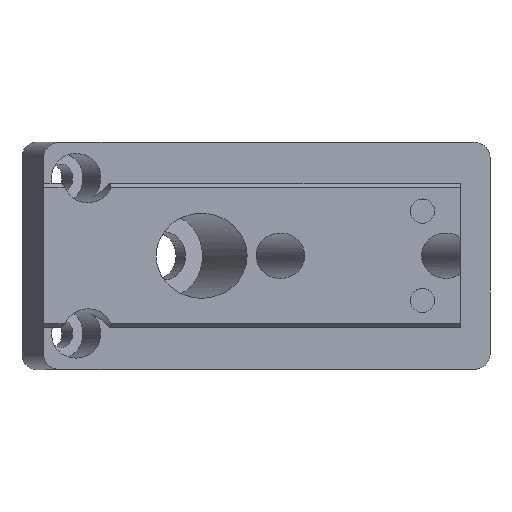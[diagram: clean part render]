
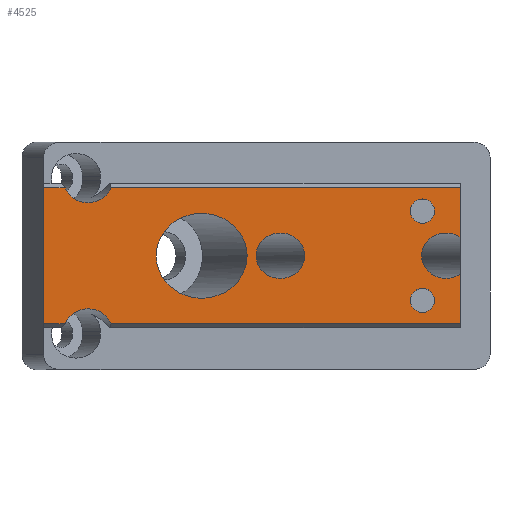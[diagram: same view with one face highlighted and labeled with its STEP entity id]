
A CAD part, top view. The second image highlights one B-rep face of the part: STEP entity #4525.
In plain terms, the highlighted planar face has unit normal (0, 0, 1).
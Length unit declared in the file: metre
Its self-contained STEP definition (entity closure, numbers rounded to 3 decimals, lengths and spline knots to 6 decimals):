
#150=ELLIPSE('',#4811,0.005998,0.0056);
#151=ELLIPSE('',#4812,0.003213,0.003);
#152=ELLIPSE('',#4815,0.003213,0.003);
#153=ELLIPSE('',#4816,0.003213,0.003);
#154=ELLIPSE('',#4817,0.003213,0.003);
#245=CIRCLE('',#4813,0.0016);
#246=CIRCLE('',#4814,0.0016);
#360=ORIENTED_EDGE('',*,*,#1730,.T.);
#361=ORIENTED_EDGE('',*,*,#1731,.T.);
#362=ORIENTED_EDGE('',*,*,#1732,.T.);
#363=ORIENTED_EDGE('',*,*,#1733,.T.);
#364=ORIENTED_EDGE('',*,*,#1734,.F.);
#365=ORIENTED_EDGE('',*,*,#1735,.T.);
#366=ORIENTED_EDGE('',*,*,#1736,.F.);
#367=ORIENTED_EDGE('',*,*,#1737,.T.);
#368=ORIENTED_EDGE('',*,*,#1738,.F.);
#369=ORIENTED_EDGE('',*,*,#1739,.T.);
#370=ORIENTED_EDGE('',*,*,#1740,.T.);
#371=ORIENTED_EDGE('',*,*,#1741,.T.);
#372=ORIENTED_EDGE('',*,*,#1742,.F.);
#373=ORIENTED_EDGE('',*,*,#1743,.T.);
#1730=EDGE_CURVE('',#2415,#2415,#150,.T.);
#1731=EDGE_CURVE('',#2416,#2416,#151,.T.);
#1732=EDGE_CURVE('',#2417,#2417,#245,.T.);
#1733=EDGE_CURVE('',#2418,#2418,#246,.T.);
#1734=EDGE_CURVE('',#2419,#2420,#2857,.T.);
#1735=EDGE_CURVE('',#2419,#2421,#152,.T.);
#1736=EDGE_CURVE('',#2422,#2421,#2858,.T.);
#1737=EDGE_CURVE('',#2422,#2423,#2859,.T.);
#1738=EDGE_CURVE('',#2424,#2423,#153,.F.);
#1739=EDGE_CURVE('',#2424,#2425,#2860,.T.);
#1740=EDGE_CURVE('',#2425,#2426,#2861,.T.);
#1741=EDGE_CURVE('',#2426,#2427,#2862,.T.);
#1742=EDGE_CURVE('',#2428,#2427,#154,.F.);
#1743=EDGE_CURVE('',#2428,#2420,#2863,.T.);
#2415=VERTEX_POINT('',#6326);
#2416=VERTEX_POINT('',#6328);
#2417=VERTEX_POINT('',#6330);
#2418=VERTEX_POINT('',#6332);
#2419=VERTEX_POINT('',#6334);
#2420=VERTEX_POINT('',#6335);
#2421=VERTEX_POINT('',#6337);
#2422=VERTEX_POINT('',#6339);
#2423=VERTEX_POINT('',#6341);
#2424=VERTEX_POINT('',#6343);
#2425=VERTEX_POINT('',#6345);
#2426=VERTEX_POINT('',#6347);
#2427=VERTEX_POINT('',#6349);
#2428=VERTEX_POINT('',#6351);
#2857=LINE('',#6333,#3333);
#2858=LINE('',#6338,#3334);
#2859=LINE('',#6340,#3335);
#2860=LINE('',#6344,#3336);
#2861=LINE('',#6346,#3337);
#2862=LINE('',#6348,#3338);
#2863=LINE('',#6352,#3339);
#3333=VECTOR('',#5190,1.);
#3334=VECTOR('',#5193,1.);
#3335=VECTOR('',#5194,1.);
#3336=VECTOR('',#5197,1.);
#3337=VECTOR('',#5198,1.);
#3338=VECTOR('',#5199,1.);
#3339=VECTOR('',#5202,1.);
#3796=EDGE_LOOP('',(#360));
#3797=EDGE_LOOP('',(#361));
#3798=EDGE_LOOP('',(#362));
#3799=EDGE_LOOP('',(#363));
#3800=EDGE_LOOP('',(#364,#365,#366,#367,#368,#369,#370,#371,#372,#373));
#4086=FACE_BOUND('',#3796,.T.);
#4087=FACE_BOUND('',#3797,.T.);
#4088=FACE_BOUND('',#3798,.T.);
#4089=FACE_BOUND('',#3799,.T.);
#4090=FACE_BOUND('',#3800,.T.);
#4368=PLANE('',#4810);
#4525=ADVANCED_FACE('',(#4086,#4087,#4088,#4089,#4090),#4368,.F.);
#4810=AXIS2_PLACEMENT_3D('',#6324,#5180,#5181);
#4811=AXIS2_PLACEMENT_3D('',#6325,#5182,#5183);
#4812=AXIS2_PLACEMENT_3D('',#6327,#5184,#5185);
#4813=AXIS2_PLACEMENT_3D('',#6329,#5186,#5187);
#4814=AXIS2_PLACEMENT_3D('',#6331,#5188,#5189);
#4815=AXIS2_PLACEMENT_3D('',#6336,#5191,#5192);
#4816=AXIS2_PLACEMENT_3D('',#6342,#5195,#5196);
#4817=AXIS2_PLACEMENT_3D('',#6350,#5200,#5201);
#5180=DIRECTION('',(0.,0.,-1.));
#5181=DIRECTION('',(-1.,0.,0.));
#5182=DIRECTION('',(0.,0.,-1.));
#5183=DIRECTION('',(-1.,0.,0.));
#5184=DIRECTION('',(0.,0.,-1.));
#5185=DIRECTION('',(-1.,0.,0.));
#5186=DIRECTION('',(0.,0.,-1.));
#5187=DIRECTION('',(-1.,0.,0.));
#5188=DIRECTION('',(0.,0.,-1.));
#5189=DIRECTION('',(-1.,0.,0.));
#5190=DIRECTION('',(0.,-1.,0.));
#5191=DIRECTION('',(0.,0.,-1.));
#5192=DIRECTION('',(-1.,0.,0.));
#5193=DIRECTION('',(0.,-1.,0.));
#5194=DIRECTION('',(-1.,0.,0.));
#5195=DIRECTION('',(0.,0.,-1.));
#5196=DIRECTION('',(-1.,0.,0.));
#5197=DIRECTION('',(-1.,0.,0.));
#5198=DIRECTION('',(0.,-1.,0.));
#5199=DIRECTION('',(1.,0.,0.));
#5200=DIRECTION('',(0.,0.,-1.));
#5201=DIRECTION('',(-1.,0.,0.));
#5202=DIRECTION('',(1.,0.,0.));
#6324=CARTESIAN_POINT('',(0.055,0.,0.0041));
#6325=CARTESIAN_POINT('',(0.020854,0.,0.0041));
#6326=CARTESIAN_POINT('',(0.014856,0.,0.0041));
#6327=CARTESIAN_POINT('',(0.031245,0.,0.0041));
#6328=CARTESIAN_POINT('',(0.028031,0.,0.0041));
#6329=CARTESIAN_POINT('',(0.05,0.0059,0.0041));
#6330=CARTESIAN_POINT('',(0.0484,0.0059,0.0041));
#6331=CARTESIAN_POINT('',(0.05,-0.0059,0.0041));
#6332=CARTESIAN_POINT('',(0.0484,-0.0059,0.0041));
#6333=CARTESIAN_POINT('',(0.055,0.,0.0041));
#6334=CARTESIAN_POINT('',(0.055,-0.002417,0.0041));
#6335=CARTESIAN_POINT('',(0.055,-0.009004,0.0041));
#6336=CARTESIAN_POINT('',(0.053096,0.,0.0041));
#6337=CARTESIAN_POINT('',(0.055,0.002417,0.0041));
#6338=CARTESIAN_POINT('',(0.055,0.,0.0041));
#6339=CARTESIAN_POINT('',(0.055,0.009004,0.0041));
#6340=CARTESIAN_POINT('',(0.,0.009004,0.0041));
#6341=CARTESIAN_POINT('',(0.00889,0.009004,0.0041));
#6342=CARTESIAN_POINT('',(0.005858,0.01,0.0041));
#6343=CARTESIAN_POINT('',(0.002827,0.009004,0.0041));
#6344=CARTESIAN_POINT('',(0.,0.009004,0.0041));
#6345=CARTESIAN_POINT('',(0.,0.009004,0.0041));
#6346=CARTESIAN_POINT('',(0.,0.,0.0041));
#6347=CARTESIAN_POINT('',(0.,-0.009004,0.0041));
#6348=CARTESIAN_POINT('',(0.055,-0.009004,0.0041));
#6349=CARTESIAN_POINT('',(0.002827,-0.009004,0.0041));
#6350=CARTESIAN_POINT('',(0.005858,-0.01,0.0041));
#6351=CARTESIAN_POINT('',(0.00889,-0.009004,0.0041));
#6352=CARTESIAN_POINT('',(0.055,-0.009004,0.0041));
